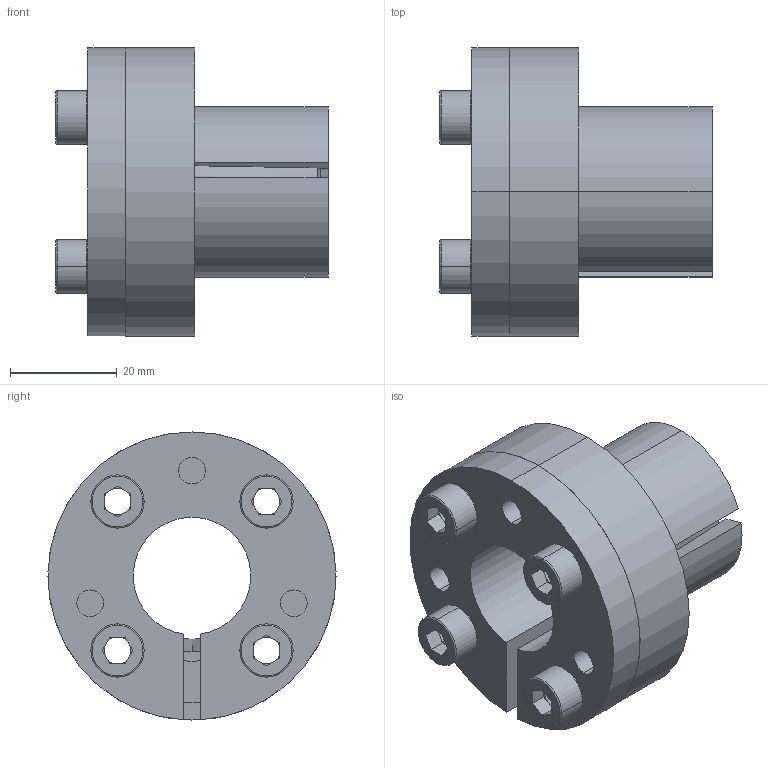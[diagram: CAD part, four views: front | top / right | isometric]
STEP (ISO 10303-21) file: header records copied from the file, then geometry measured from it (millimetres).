
FILE_DESCRIPTION (( 'STEP AP203' ), '1' );
FILE_NAME ('T-22-32.STEP', '2017-10-13T08:11:54', ( 'MYCOM' ), ( '' ), 'SwSTEP 2.0', 'SolidWorks 2015', '' );
FILE_SCHEMA (( 'CONFIG_CONTROL_DESIGN' ));
Length unit declared in the file: millimetre
Products named in the file (1): T-22-32
Bounding box: 51 x 54 x 54 mm (x, y, z)
Surface area: 25863.3 mm2 (no closed solid volume)
Topology: 0 solids, 7 shells, 129 faces, 335 edges, 212 vertices
Faces by surface type: plane 61, cylinder 47, torus 16, cone 5
Entity records: 4057 total; most frequent: DIRECTION 757, CARTESIAN_POINT 695, ORIENTED_EDGE 611, EDGE_CURVE 335, AXIS2_PLACEMENT_3D 296, VERTEX_POINT 212, CIRCLE 166, VECTOR 165
